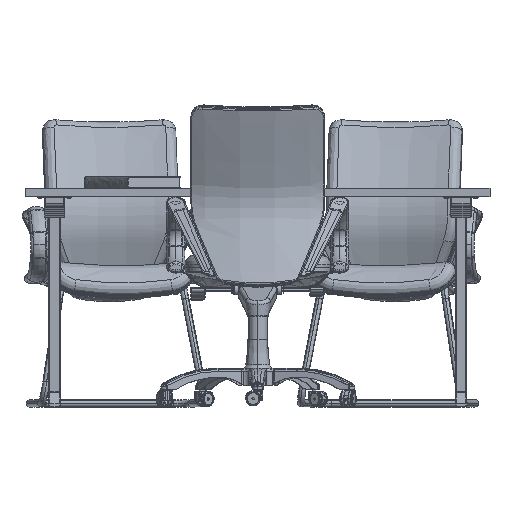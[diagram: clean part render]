
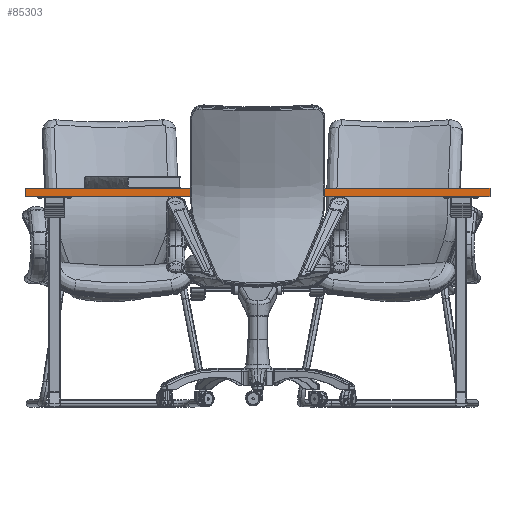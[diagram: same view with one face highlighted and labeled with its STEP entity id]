
A CAD part, top view. The second image highlights one B-rep face of the part: STEP entity #85303.
In plain terms, the highlighted planar face has unit normal (0, 0, 1).
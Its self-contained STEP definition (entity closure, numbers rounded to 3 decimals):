
#470 = DIRECTION ( 'NONE',  ( 0., -1., 0. ) ) ;
#1457 = LINE ( 'NONE', #69212, #67890 ) ;
#1577 = LINE ( 'NONE', #103195, #53704 ) ;
#1809 = ORIENTED_EDGE ( 'NONE', *, *, #50619, .T. ) ;
#2536 = CARTESIAN_POINT ( 'NONE',  ( -800., 28., 400. ) ) ;
#6509 = VERTEX_POINT ( 'NONE', #104888 ) ;
#10883 = EDGE_CURVE ( 'NONE', #6509, #69615, #1577, .T. ) ;
#23243 = CARTESIAN_POINT ( 'NONE',  ( -800., 28., 400. ) ) ;
#35259 = EDGE_CURVE ( 'NONE', #62399, #97736, #1457, .T. ) ;
#35288 = LINE ( 'NONE', #2536, #91731 ) ;
#43386 = EDGE_LOOP ( 'NONE', ( #1809, #77691, #95895, #93763 ) ) ;
#45902 = DIRECTION ( 'NONE',  ( 1., 0., 0. ) ) ;
#48279 = FACE_OUTER_BOUND ( 'NONE', #43386, .T. ) ;
#48825 = DIRECTION ( 'NONE',  ( -1., 0., 0. ) ) ;
#50269 = DIRECTION ( 'NONE',  ( 1., 0., 0. ) ) ;
#50619 = EDGE_CURVE ( 'NONE', #97736, #69615, #105326, .T. ) ;
#53704 = VECTOR ( 'NONE', #470, 1000. ) ;
#59764 = EDGE_CURVE ( 'NONE', #62399, #6509, #35288, .T. ) ;
#60845 = CARTESIAN_POINT ( 'NONE',  ( -800., 0., 400. ) ) ;
#62129 = VECTOR ( 'NONE', #50269, 1000. ) ;
#62399 = VERTEX_POINT ( 'NONE', #109703 ) ;
#67890 = VECTOR ( 'NONE', #93661, 1000. ) ;
#69212 = CARTESIAN_POINT ( 'NONE',  ( -800., 28., 400. ) ) ;
#69615 = VERTEX_POINT ( 'NONE', #102006 ) ;
#77691 = ORIENTED_EDGE ( 'NONE', *, *, #10883, .F. ) ;
#85303 = ADVANCED_FACE ( 'NONE', ( #48279 ), #98786, .F. ) ;
#90314 = CARTESIAN_POINT ( 'NONE',  ( -800., 0., 400. ) ) ;
#91023 = DIRECTION ( 'NONE',  ( 0., 0., -1. ) ) ;
#91731 = VECTOR ( 'NONE', #45902, 1000. ) ;
#93661 = DIRECTION ( 'NONE',  ( 0., -1., 0. ) ) ;
#93763 = ORIENTED_EDGE ( 'NONE', *, *, #35259, .T. ) ;
#95895 = ORIENTED_EDGE ( 'NONE', *, *, #59764, .F. ) ;
#97736 = VERTEX_POINT ( 'NONE', #60845 ) ;
#98786 = PLANE ( 'NONE',  #103903 ) ;
#102006 = CARTESIAN_POINT ( 'NONE',  ( 800., 0., 400. ) ) ;
#103195 = CARTESIAN_POINT ( 'NONE',  ( 800., 28., 400. ) ) ;
#103903 = AXIS2_PLACEMENT_3D ( 'NONE', #23243, #91023, #48825 ) ;
#104888 = CARTESIAN_POINT ( 'NONE',  ( 800., 28., 400. ) ) ;
#105326 = LINE ( 'NONE', #90314, #62129 ) ;
#109703 = CARTESIAN_POINT ( 'NONE',  ( -800., 28., 400. ) ) ;
